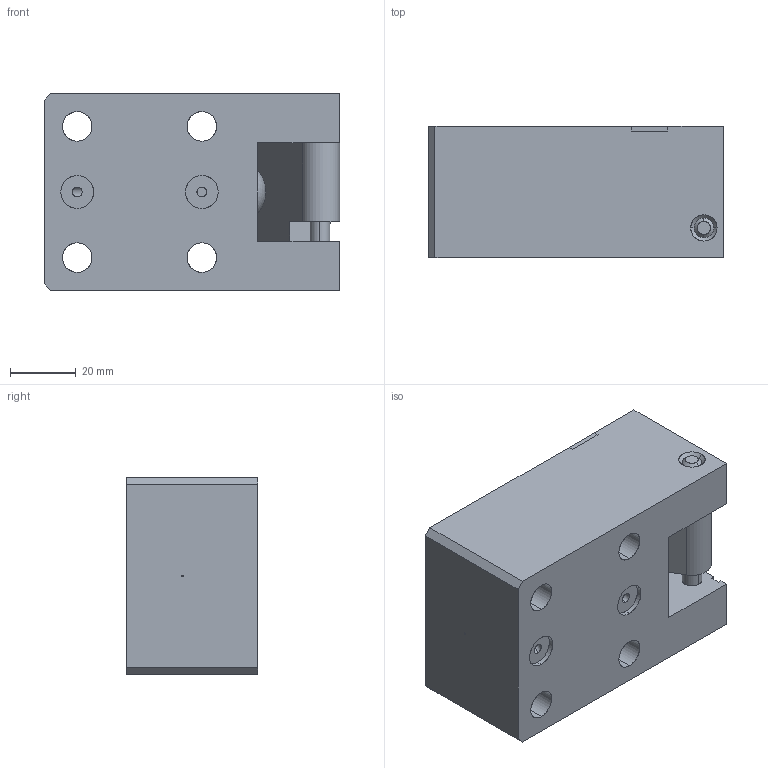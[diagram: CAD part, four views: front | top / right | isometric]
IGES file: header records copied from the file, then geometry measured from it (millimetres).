
Start section: SolidWorks IGES file using analytic representation for surfaces
Global section: file name: D:\karuppas\Clasp\Low block\low block\PDSC LOW BLOCK CYLINDER.IGS; native system: SolidWorks 2017; preprocessor: SolidWorks 2017; author: pc; date: 220711.225855; units: millimetre
Bounding box: 90 x 40.07 x 60 mm (x, y, z)
Surface area: 40794.2 mm2 (no closed solid volume)
Topology: 0 solids, 0 shells, 291 faces, 4592 edges, 4588 vertices
Faces by surface type: bspline 230, revolution 61
